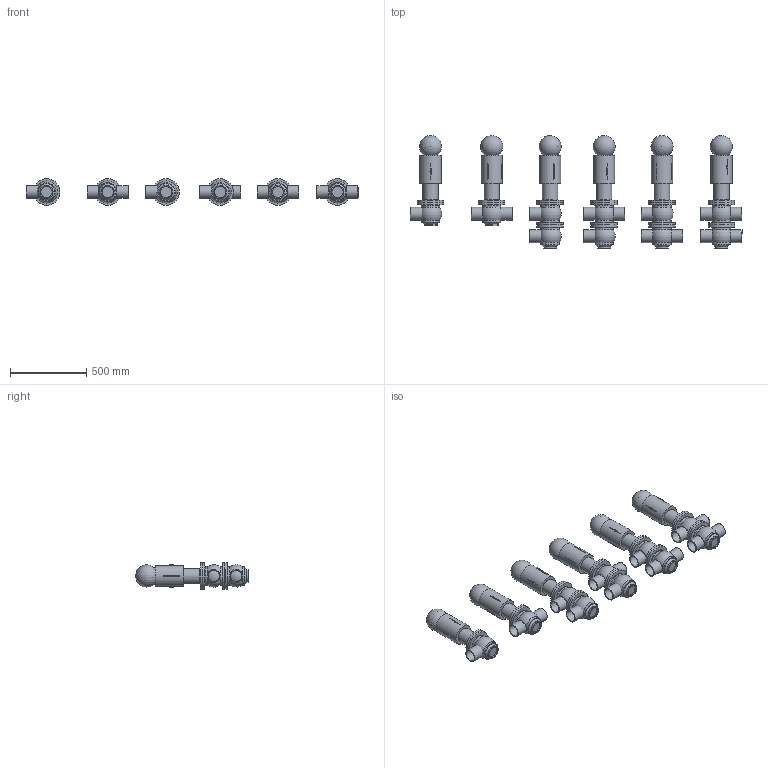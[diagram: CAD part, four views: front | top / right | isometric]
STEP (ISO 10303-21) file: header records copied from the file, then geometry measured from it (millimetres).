
FILE_DESCRIPTION(/* description */ (''),/* implementation_level */ '2;1');
FILE_NAME(/* name */ 'C:\Users\marz-m\Desktop\PDF\BBZQ 3D STEP\BBZQ-DN80-CIL.134.stp',/* time_stamp */ '2018-04-13T15:23:39+02:00',/* author */ ('marz-m'),/* organization */ (''),/* preprocessor_version */ 'ST-DEVELOPER v17',/* originating_system */ 'Autodesk Inventor 2018',/* authorisation */ '');
FILE_SCHEMA (('AUTOMOTIVE_DESIGN { 1 0 10303 214 3 1 1 }'));
Length unit declared in the file: millimetre
Products named in the file (8): BBZQ-DN80-CIL.134; assemblaggio dn80 per cil 108-156; CIL134; SAGOMA-GIOTTO-; COR-INF-L-BBZQ-DN080-SALD; COR-SUP-L-BBZQ-DN80; COR-SUP-T-BBZQ-DN80; COR-INF-T-BBZQ-DN080X3-SALD
Assembly tree (28 placements, depth 2):
  BBZQ-DN80-CIL.134
    assemblaggio dn80 per cil 108-156  x6
    COR-INF-L-BBZQ-DN080-SALD  x3
    COR-INF-T-BBZQ-DN080X3-SALD  x3
    COR-SUP-L-BBZQ-DN80  x2
    COR-SUP-T-BBZQ-DN80  x2
    CIL134  x6
    SAGOMA-GIOTTO-  x6
Bounding box: 2179.66 x 739.47 x 174 mm (x, y, z)
Volume: 56892718.3 mm3; surface area: 3454239.6 mm2
Topology: 31 solids, 31 shells, 427 faces, 1127 edges, 800 vertices
Faces by surface type: plane 160, cylinder 106, torus 74, cone 54, sphere 33
Full cylindrical faces by diameter (mm): 20 x12, 75 x21, 85 x21, 100 x6, 120 x20, 139 x6, 174 x20
Entity records: 4473 total; most frequent: CARTESIAN_POINT 1033, DIRECTION 755, ORIENTED_EDGE 596, AXIS2_PLACEMENT_3D 358, EDGE_CURVE 298, VERTEX_POINT 216, CIRCLE 197, EDGE_LOOP 142
